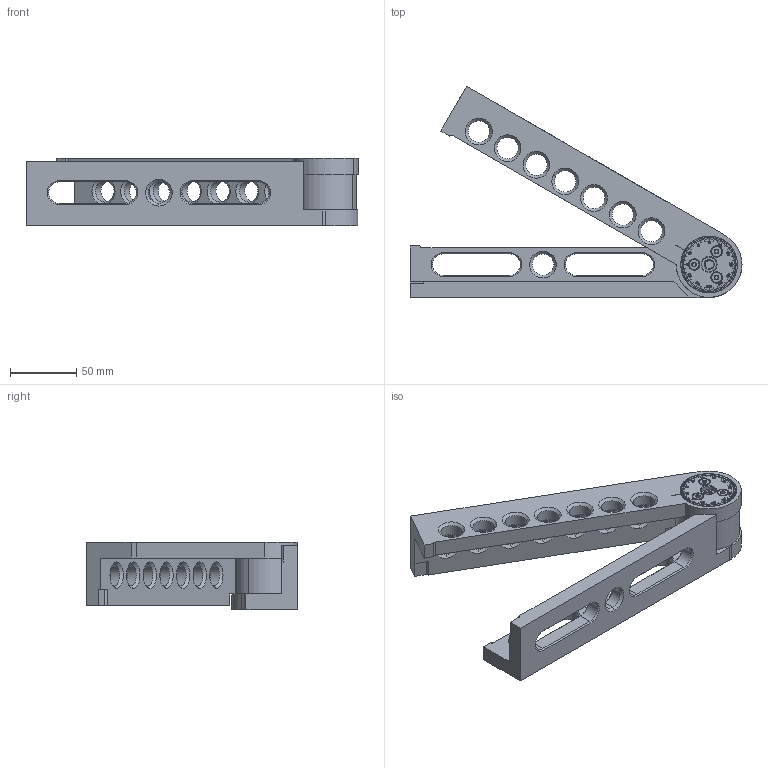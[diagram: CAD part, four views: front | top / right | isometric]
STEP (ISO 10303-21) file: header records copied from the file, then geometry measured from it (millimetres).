
FILE_DESCRIPTION (( 'STEP AP203' ), '1' );
FILE_NAME ('160171.step', '2014-08-08T10:22:05', ( 'User' ), ( '' ), 'SwSTEP 2.0', 'SolidWorks 2014', '' );
FILE_SCHEMA (( 'CONFIG_CONTROL_DESIGN' ));
Length unit declared in the file: millimetre
Products named in the file (8): 160171_Schenkel 2_Detailliert; 160171_Pos3_Buchse gross; 160171_Pos5_Hülse; 160171_Schenkel 1_Detailliert; 160171_Pos4_Schraube; 160171_Pos6_Skala; M4x10 DIN 7991_Detailliert; 160171
Assembly tree (9 placements, depth 2):
  160171
    160171_Schenkel 2_Detailliert
    160171_Pos3_Buchse gross
    160171_Pos5_Hülse
    160171_Schenkel 1_Detailliert
    160171_Pos4_Schraube
    160171_Pos6_Skala
    M4x10 DIN 7991_Detailliert  x3
Bounding box: 249.75 x 159.15 x 51 mm (x, y, z)
Volume: 356683.7 mm3; surface area: 112756.2 mm2
Topology: 9 solids, 9 shells, 1519 faces, 4143 edges, 2706 vertices
Faces by surface type: plane 982, bspline 243, cylinder 148, cone 140, torus 6
Entity records: 64029 total; most frequent: CARTESIAN_POINT 26710, ORIENTED_EDGE 8086, DIRECTION 6732, EDGE_CURVE 4043, LINE 2748, VECTOR 2748, VERTEX_POINT 2650, AXIS2_PLACEMENT_3D 1992
